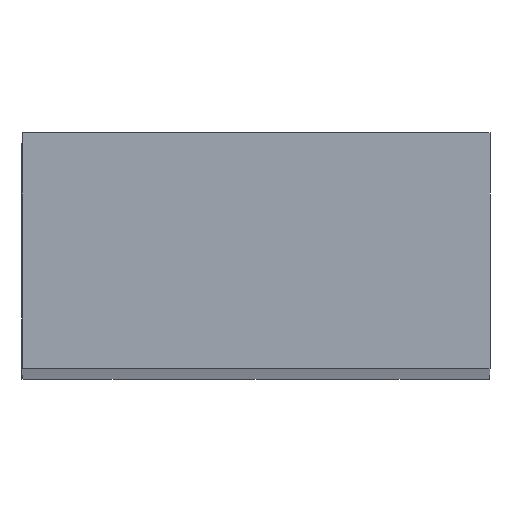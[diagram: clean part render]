
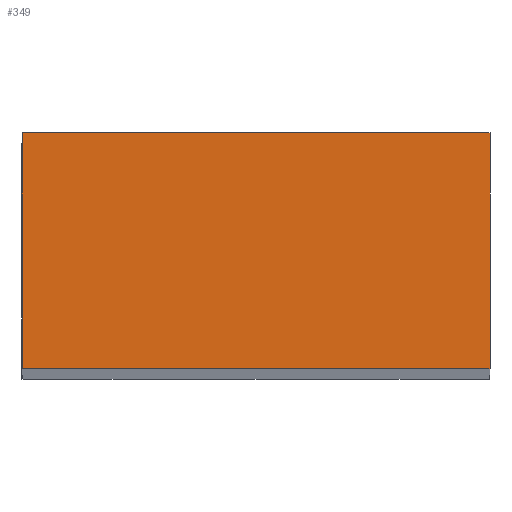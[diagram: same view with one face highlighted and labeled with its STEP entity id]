
A CAD part, top view. The second image highlights one B-rep face of the part: STEP entity #349.
In plain terms, the highlighted planar face has unit normal (0, 0, 1).
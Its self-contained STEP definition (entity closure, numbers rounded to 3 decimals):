
#35 = DIRECTION ( 'NONE',  ( 1., 0., 0. ) ) ;
#47 = CARTESIAN_POINT ( 'NONE',  ( 15.125, 7.625, 410. ) ) ;
#52 = DIRECTION ( 'NONE',  ( 0., -1., 0. ) ) ;
#228 = AXIS2_PLACEMENT_3D ( 'NONE', #1018, #1013, #1044 ) ;
#349 = ADVANCED_FACE ( 'NONE', ( #666 ), #1017, .F. ) ;
#365 = LINE ( 'NONE', #47, #366 ) ;
#366 = VECTOR ( 'NONE', #35, 1000. ) ;
#376 = VERTEX_POINT ( 'NONE', #1002 ) ;
#378 = VERTEX_POINT ( 'NONE', #1015 ) ;
#424 = VERTEX_POINT ( 'NONE', #449 ) ;
#426 = VERTEX_POINT ( 'NONE', #446 ) ;
#446 = CARTESIAN_POINT ( 'NONE',  ( 15.125, -7.625, 410. ) ) ;
#449 = CARTESIAN_POINT ( 'NONE',  ( -15.125, 7.625, 410. ) ) ;
#494 = LINE ( 'NONE', #735, #502 ) ;
#495 = LINE ( 'NONE', #737, #499 ) ;
#496 = LINE ( 'NONE', #964, #498 ) ;
#498 = VECTOR ( 'NONE', #733, 1000. ) ;
#499 = VECTOR ( 'NONE', #734, 1000. ) ;
#502 = VECTOR ( 'NONE', #52, 1000. ) ;
#587 = EDGE_LOOP ( 'NONE', ( #748, #746, #744, #745 ) ) ;
#666 = FACE_OUTER_BOUND ( 'NONE', #587, .T. ) ;
#733 = DIRECTION ( 'NONE',  ( 0., -1., 0. ) ) ;
#734 = DIRECTION ( 'NONE',  ( 1., 0., 0. ) ) ;
#735 = CARTESIAN_POINT ( 'NONE',  ( 15.125, 7.625, 410. ) ) ;
#737 = CARTESIAN_POINT ( 'NONE',  ( 15.125, -7.625, 410. ) ) ;
#744 = ORIENTED_EDGE ( 'NONE', *, *, #906, .F. ) ;
#745 = ORIENTED_EDGE ( 'NONE', *, *, #884, .T. ) ;
#746 = ORIENTED_EDGE ( 'NONE', *, *, #887, .F. ) ;
#748 = ORIENTED_EDGE ( 'NONE', *, *, #885, .T. ) ;
#884 = EDGE_CURVE ( 'NONE', #424, #376, #496, .T. ) ;
#885 = EDGE_CURVE ( 'NONE', #376, #426, #495, .T. ) ;
#887 = EDGE_CURVE ( 'NONE', #378, #426, #494, .T. ) ;
#906 = EDGE_CURVE ( 'NONE', #424, #378, #365, .T. ) ;
#964 = CARTESIAN_POINT ( 'NONE',  ( -15.125, 7.625, 410. ) ) ;
#1002 = CARTESIAN_POINT ( 'NONE',  ( -15.125, -7.625, 410. ) ) ;
#1013 = DIRECTION ( 'NONE',  ( 0., 0., -1. ) ) ;
#1015 = CARTESIAN_POINT ( 'NONE',  ( 15.125, 7.625, 410. ) ) ;
#1017 = PLANE ( 'NONE',  #228 ) ;
#1018 = CARTESIAN_POINT ( 'NONE',  ( 15.125, 7.625, 410. ) ) ;
#1044 = DIRECTION ( 'NONE',  ( -1., 0., 0. ) ) ;
